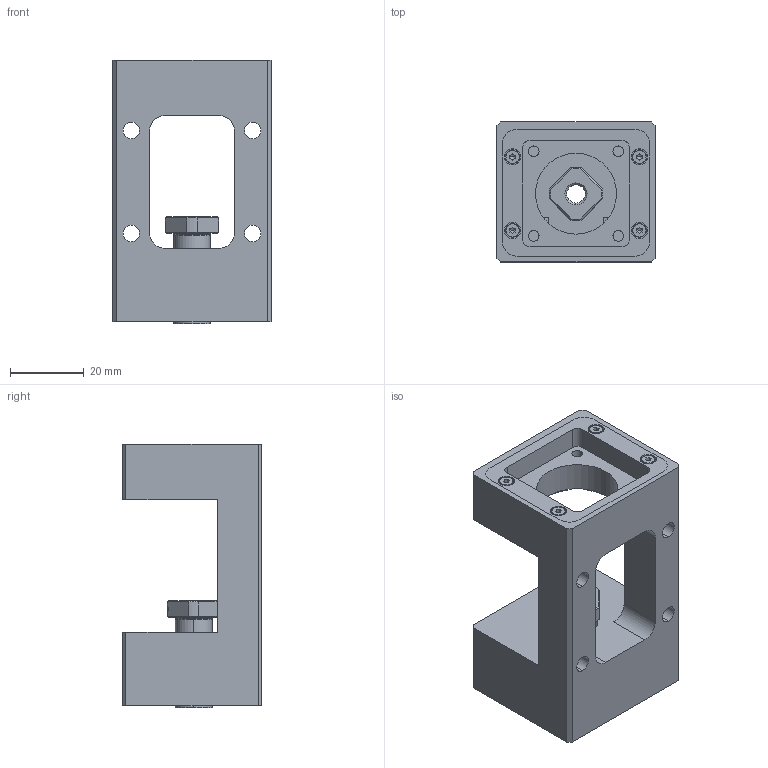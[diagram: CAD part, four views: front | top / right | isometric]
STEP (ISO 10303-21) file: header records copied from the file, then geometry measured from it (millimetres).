
FILE_DESCRIPTION (( 'STEP AP214' ), '1' );
FILE_NAME ('M-SBU-6.28.2.5.STEP', '2026-02-09T09:21:02', ( '决扁浅何厘' ), ( '' ), 'SwSTEP 2.0', 'SolidWorks 2024', '' );
FILE_SCHEMA (( 'AUTOMOTIVE_DESIGN' ));
Length unit declared in the file: millimetre
Products named in the file (9): 28 BRACKET; E-SBU-6.28 HOUSING; EK-6 COVER; RN6; 6-7 COLLAR; M-SBU-6.28.2.5; socket head cap screw_ks_KS 1003 - M2 x 8 x 8-N; deep groove ball bearing (series 60)_ks_KS B 2023 S60 - 606-S-ZZ; 6-5 COLLAR
Assembly tree (12 placements, depth 2):
  M-SBU-6.28.2.5
    E-SBU-6.28 HOUSING
    deep groove ball bearing (series 60)_ks_KS B 2023 S60 - 606-S-ZZ  x2
    EK-6 COVER
    28 BRACKET
    socket head cap screw_ks_KS 1003 - M2 x 8 x 8-N  x4
    6-5 COLLAR
    6-7 COLLAR
    RN6
Bounding box: 43 x 38 x 71.5 mm (x, y, z)
Volume: 55489.4 mm3; surface area: 27700.1 mm2
Topology: 14 solids, 18 shells, 462 faces, 1065 edges, 657 vertices
Faces by surface type: cylinder 186, plane 176, torus 64, cone 36
Entity records: 10084 total; most frequent: CARTESIAN_POINT 1919, DIRECTION 1772, ORIENTED_EDGE 1538, EDGE_CURVE 769, AXIS2_PLACEMENT_3D 699, VERTEX_POINT 490, EDGE_LOOP 395, LINE 374
